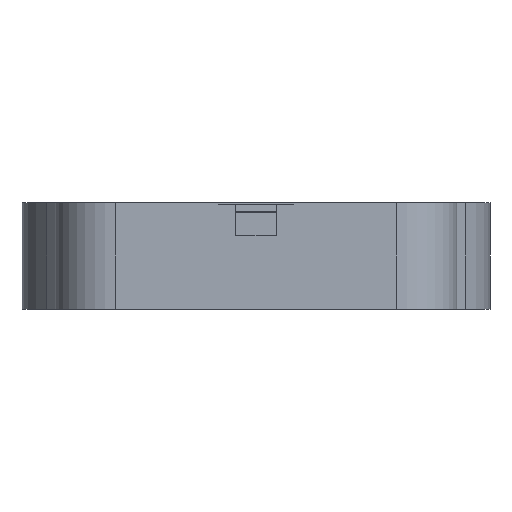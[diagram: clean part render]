
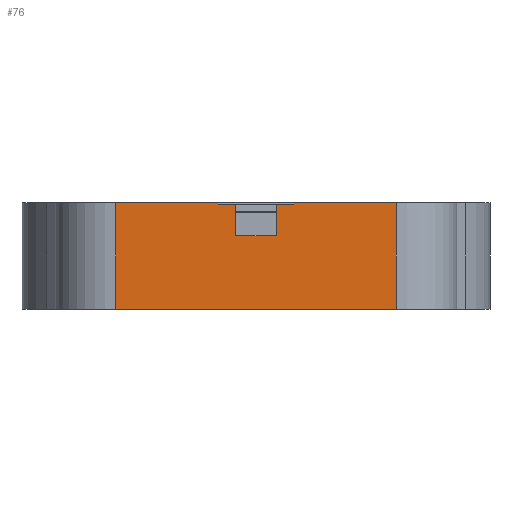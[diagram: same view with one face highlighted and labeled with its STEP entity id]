
A CAD part, left-side view. The second image highlights one B-rep face of the part: STEP entity #76.
In plain terms, the highlighted planar face has unit normal (-1, 0, 0).
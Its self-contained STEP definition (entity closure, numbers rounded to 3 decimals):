
#76=ADVANCED_FACE('',(#2061),#2063,.T.);
#2061=FACE_BOUND('',#2062,.T.);
#2062=EDGE_LOOP('',(#3628,#3629,#3630,#3631,#3632,#3633,#3634,#3635,#3636,#3637,
#3638,#3639));
#2063=PLANE('',#2064);
#2064=AXIS2_PLACEMENT_3D('',#2065,#2066,#2067);
#2065=CARTESIAN_POINT('',(-302.,97.073,0.));
#2066=DIRECTION('',(-1.,0.,0.));
#2067=DIRECTION('',(0.,-1.,0.));
#3628=ORIENTED_EDGE('',*,*,#4932,.T.);
#3629=ORIENTED_EDGE('',*,*,#4933,.F.);
#3630=ORIENTED_EDGE('',*,*,#4934,.F.);
#3631=ORIENTED_EDGE('',*,*,#4935,.T.);
#3632=ORIENTED_EDGE('',*,*,#4936,.T.);
#3633=ORIENTED_EDGE('',*,*,#4937,.F.);
#3634=ORIENTED_EDGE('',*,*,#4938,.T.);
#3635=ORIENTED_EDGE('',*,*,#4939,.T.);
#3636=ORIENTED_EDGE('',*,*,#4931,.T.);
#3637=ORIENTED_EDGE('',*,*,#4940,.T.);
#3638=ORIENTED_EDGE('',*,*,#4909,.T.);
#3639=ORIENTED_EDGE('',*,*,#4941,.T.);
#4909=EDGE_CURVE('',#5563,#5561,#5564,.F.);
#4931=EDGE_CURVE('',#5584,#5605,#5607,.F.);
#4932=EDGE_CURVE('',#5608,#5609,#5610,.F.);
#4933=EDGE_CURVE('',#5611,#5609,#5612,.T.);
#4934=EDGE_CURVE('',#5613,#5611,#5614,.T.);
#4935=EDGE_CURVE('',#5613,#5615,#5616,.T.);
#4936=EDGE_CURVE('',#5615,#5617,#5618,.T.);
#4937=EDGE_CURVE('',#5619,#5617,#5620,.T.);
#4938=EDGE_CURVE('',#5619,#5621,#5622,.F.);
#4939=EDGE_CURVE('',#5621,#5584,#5623,.T.);
#4940=EDGE_CURVE('',#5605,#5563,#5624,.T.);
#4941=EDGE_CURVE('',#5561,#5608,#5625,.T.);
#5561=VERTEX_POINT('',#6647);
#5563=VERTEX_POINT('',#6651);
#5564=LINE('',#6652,#6653);
#5584=VERTEX_POINT('',#6694);
#5605=VERTEX_POINT('',#6735);
#5607=LINE('',#6739,#6740);
#5608=VERTEX_POINT('',#6742);
#5609=VERTEX_POINT('',#6743);
#5610=LINE('',#6744,#6745);
#5611=VERTEX_POINT('',#6747);
#5612=LINE('',#6748,#6749);
#5613=VERTEX_POINT('',#6751);
#5614=LINE('',#6752,#6753);
#5615=VERTEX_POINT('',#6755);
#5616=LINE('',#6756,#6757);
#5617=VERTEX_POINT('',#6759);
#5618=LINE('',#6760,#6761);
#5619=VERTEX_POINT('',#6763);
#5620=LINE('',#6764,#6765);
#5621=VERTEX_POINT('',#6767);
#5622=LINE('',#6768,#6769);
#5623=LINE('',#6771,#6772);
#5624=LINE('',#6774,#6775);
#5625=LINE('',#6777,#6778);
#6647=CARTESIAN_POINT('',(-302.,14.,73.));
#6651=CARTESIAN_POINT('',(-302.,14.,51.));
#6652=CARTESIAN_POINT('',(-302.,14.,73.));
#6653=VECTOR('',#6654,1.);
#6654=DIRECTION('',(0.,0.,-1.));
#6694=CARTESIAN_POINT('',(-302.,-14.,73.));
#6735=CARTESIAN_POINT('',(-302.,-14.,51.));
#6739=CARTESIAN_POINT('',(-302.,-14.,51.));
#6740=VECTOR('',#6741,1.);
#6741=DIRECTION('',(0.,0.,1.));
#6742=CARTESIAN_POINT('',(-302.,26.,73.));
#6743=CARTESIAN_POINT('',(-302.,26.,74.));
#6744=CARTESIAN_POINT('',(-302.,26.,74.));
#6745=VECTOR('',#6746,1.);
#6746=DIRECTION('',(0.,0.,-1.));
#6747=CARTESIAN_POINT('',(-302.,97.073,74.));
#6748=CARTESIAN_POINT('',(-302.,97.073,74.));
#6749=VECTOR('',#6750,1.);
#6750=DIRECTION('',(0.,-1.,0.));
#6751=CARTESIAN_POINT('',(-302.,97.073,0.));
#6752=CARTESIAN_POINT('',(-302.,97.073,0.));
#6753=VECTOR('',#6754,1.);
#6754=DIRECTION('',(0.,0.,1.));
#6755=CARTESIAN_POINT('',(-302.,-97.073,0.));
#6756=CARTESIAN_POINT('',(-302.,97.073,0.));
#6757=VECTOR('',#6758,1.);
#6758=DIRECTION('',(0.,-1.,0.));
#6759=CARTESIAN_POINT('',(-302.,-97.073,74.));
#6760=CARTESIAN_POINT('',(-302.,-97.073,0.));
#6761=VECTOR('',#6762,1.);
#6762=DIRECTION('',(0.,0.,1.));
#6763=CARTESIAN_POINT('',(-302.,-26.,74.));
#6764=CARTESIAN_POINT('',(-302.,-26.,74.));
#6765=VECTOR('',#6766,1.);
#6766=DIRECTION('',(0.,-1.,0.));
#6767=CARTESIAN_POINT('',(-302.,-26.,73.));
#6768=CARTESIAN_POINT('',(-302.,-26.,73.));
#6769=VECTOR('',#6770,1.);
#6770=DIRECTION('',(0.,0.,1.));
#6771=CARTESIAN_POINT('',(-302.,-26.,73.));
#6772=VECTOR('',#6773,1.);
#6773=DIRECTION('',(0.,1.,0.));
#6774=CARTESIAN_POINT('',(-302.,-14.,51.));
#6775=VECTOR('',#6776,1.);
#6776=DIRECTION('',(0.,1.,0.));
#6777=CARTESIAN_POINT('',(-302.,14.,73.));
#6778=VECTOR('',#6779,1.);
#6779=DIRECTION('',(0.,1.,0.));
